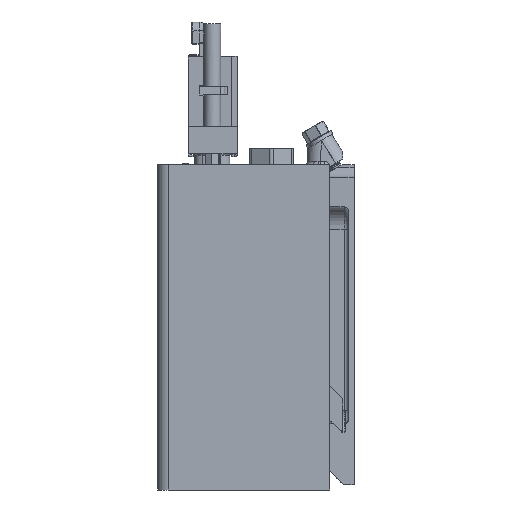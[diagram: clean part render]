
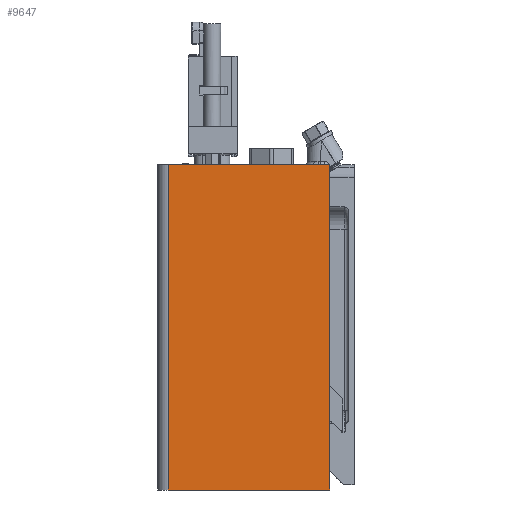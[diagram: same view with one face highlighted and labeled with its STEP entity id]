
A CAD part, left-side view. The second image highlights one B-rep face of the part: STEP entity #9647.
In plain terms, the highlighted planar face has unit normal (-1, 0, 0).
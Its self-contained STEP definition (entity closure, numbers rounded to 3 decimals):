
#1385 = VERTEX_POINT ( 'NONE', #9109 ) ;
#1496 = EDGE_CURVE ( 'NONE', #1385, #21397, #20834, .T. ) ;
#2047 = ORIENTED_EDGE ( 'NONE', *, *, #19965, .F. ) ;
#3441 = CARTESIAN_POINT ( 'NONE',  ( -38.1, 30.035, -111.506 ) ) ;
#4275 = PLANE ( 'NONE',  #4311 ) ;
#4311 = AXIS2_PLACEMENT_3D ( 'NONE', #14657, #18771, #10213 ) ;
#5408 = CARTESIAN_POINT ( 'NONE',  ( -38.1, -27.496, -111.506 ) ) ;
#5507 = CARTESIAN_POINT ( 'NONE',  ( -38.1, 30.035, -208.194 ) ) ;
#6728 = DIRECTION ( 'NONE',  ( 0., -1., 0. ) ) ;
#6807 = LINE ( 'NONE', #15490, #9053 ) ;
#7138 = DIRECTION ( 'NONE',  ( 0., 0., 1. ) ) ;
#7351 = EDGE_LOOP ( 'NONE', ( #2047, #7647, #9458, #12475 ) ) ;
#7647 = ORIENTED_EDGE ( 'NONE', *, *, #1496, .F. ) ;
#9053 = VECTOR ( 'NONE', #7138, 1000. ) ;
#9081 = EDGE_CURVE ( 'NONE', #17101, #16842, #6807, .T. ) ;
#9109 = CARTESIAN_POINT ( 'NONE',  ( -38.1, 30.035, -111.506 ) ) ;
#9458 = ORIENTED_EDGE ( 'NONE', *, *, #18836, .T. ) ;
#9647 = ADVANCED_FACE ( 'NONE', ( #11475 ), #4275, .T. ) ;
#10207 = LINE ( 'NONE', #3441, #11190 ) ;
#10213 = DIRECTION ( 'NONE',  ( 0., 0., 1. ) ) ;
#11190 = VECTOR ( 'NONE', #6728, 1000. ) ;
#11475 = FACE_OUTER_BOUND ( 'NONE', #7351, .T. ) ;
#11560 = LINE ( 'NONE', #16425, #16998 ) ;
#12475 = ORIENTED_EDGE ( 'NONE', *, *, #9081, .T. ) ;
#12489 = CARTESIAN_POINT ( 'NONE',  ( -38.1, 30.035, 4.318 ) ) ;
#12647 = CARTESIAN_POINT ( 'NONE',  ( -38.1, -27.496, 4.318 ) ) ;
#14629 = DIRECTION ( 'NONE',  ( 0., -1., 0. ) ) ;
#14657 = CARTESIAN_POINT ( 'NONE',  ( -38.1, 30.035, -208.194 ) ) ;
#15490 = CARTESIAN_POINT ( 'NONE',  ( -38.1, -27.496, -209.328 ) ) ;
#16425 = CARTESIAN_POINT ( 'NONE',  ( -38.1, 30.035, 4.318 ) ) ;
#16842 = VERTEX_POINT ( 'NONE', #12647 ) ;
#16998 = VECTOR ( 'NONE', #14629, 1000. ) ;
#17101 = VERTEX_POINT ( 'NONE', #5408 ) ;
#17787 = DIRECTION ( 'NONE',  ( 0., 0., 1. ) ) ;
#18771 = DIRECTION ( 'NONE',  ( -1., 0., 0. ) ) ;
#18836 = EDGE_CURVE ( 'NONE', #1385, #17101, #10207, .T. ) ;
#19965 = EDGE_CURVE ( 'NONE', #21397, #16842, #11560, .T. ) ;
#20832 = VECTOR ( 'NONE', #17787, 1000. ) ;
#20834 = LINE ( 'NONE', #5507, #20832 ) ;
#21397 = VERTEX_POINT ( 'NONE', #12489 ) ;
